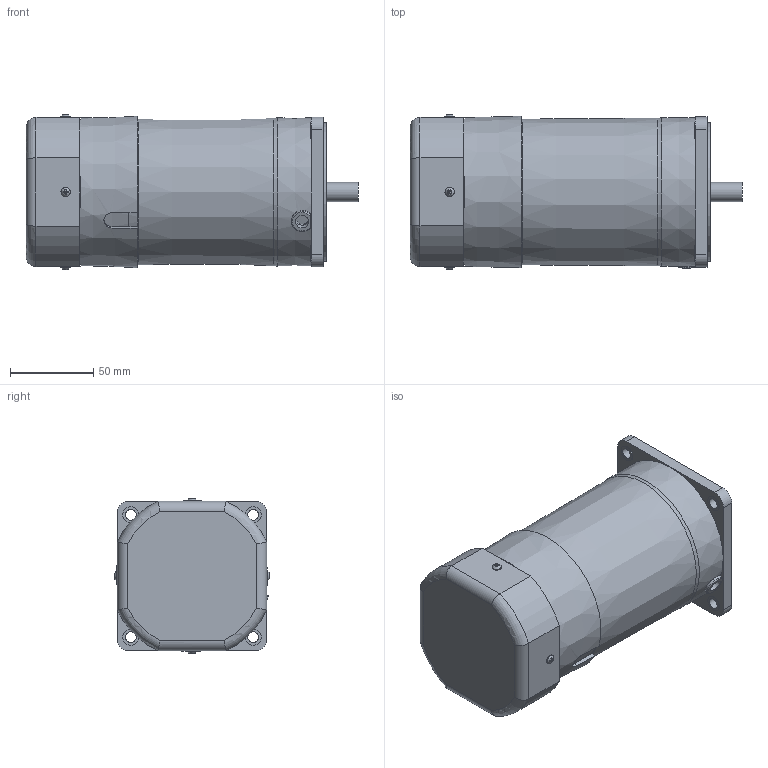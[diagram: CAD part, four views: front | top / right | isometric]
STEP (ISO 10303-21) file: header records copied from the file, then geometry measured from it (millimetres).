
FILE_DESCRIPTION((''),'2;1');
FILE_NAME('D:\김성묵\업무폴더\개발 파일\프로젝트 개발 AB등급\AC표준형 개발자료\90각 이하 표준형 개발\도면작성 자료\3D 도면\홈페이지용 3D 파일\90W MOTOR\BLACK TYPE\S9I90G-E.stp','2015-03-26T13:50:38',('smkim'),(''),'Autodesk Inventor 2012','Autodesk Inventor 2012','');
FILE_SCHEMA(('AUTOMOTIVE_DESIGN { 1 0 10303 214 1 1 1 1 }'));
Length unit declared in the file: millimetre
Products named in the file (7): S9I90G-E; S9I90GㅁCE; S9I60G; 6_CORD BUSH; FAN COVER; 552300620; 60W 전자BK COVER
Assembly tree (9 placements, depth 2):
  S9I90G-E
    S9I90GㅁCE
    S9I60G
    6_CORD BUSH
    FAN COVER
    552300620  x4
    60W 전자BK COVER
Bounding box: 199.3 x 93.49 x 93.49 mm (x, y, z)
Volume: 1264440.8 mm3; surface area: 120581.6 mm2
Topology: 9 solids, 10 shells, 241 faces, 560 edges, 363 vertices
Faces by surface type: plane 148, cylinder 61, cone 14, torus 14, bspline 4
Full cylindrical faces by diameter (mm): 3 x8, 3.5 x4, 5.6 x4, 6.5 x4, 8 x1, 9.5 x4, 10 x1, 11.5 x1, 28 x1, 34 x1, 40 x1, 60 x1, 66 x1, 80 x1, 83 x1, 86 x2, 86.3 x1
Entity records: 5382 total; most frequent: CARTESIAN_POINT 1275, DIRECTION 834, ORIENTED_EDGE 714, EDGE_CURVE 357, AXIS2_PLACEMENT_3D 329, EDGE_LOOP 261, VERTEX_POINT 260, FACE_OUTER_BOUND 178
